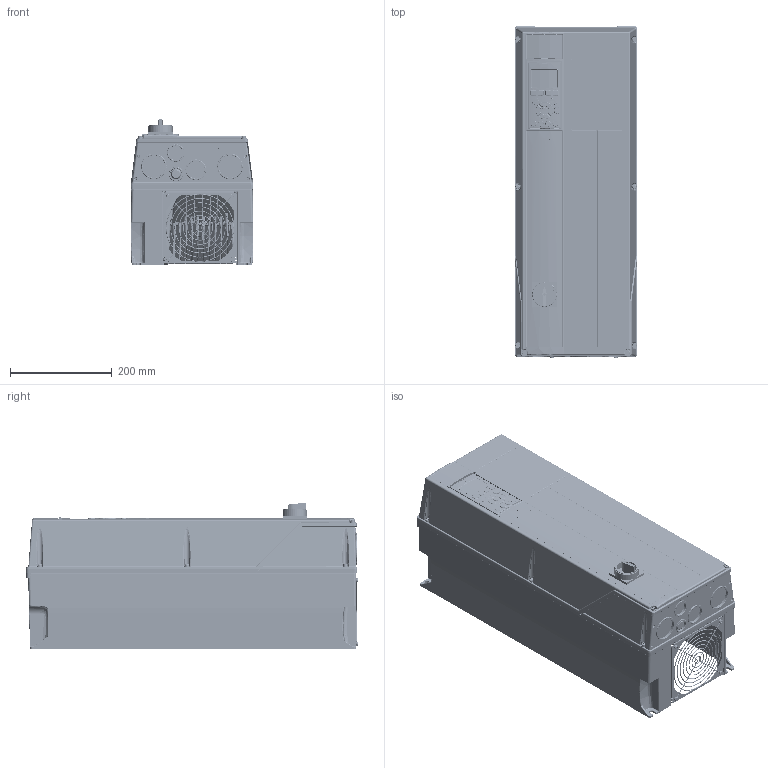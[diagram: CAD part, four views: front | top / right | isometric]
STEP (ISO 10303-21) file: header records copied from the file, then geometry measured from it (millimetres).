
FILE_DESCRIPTION((''),'2;1');
FILE_NAME('DANFOSS-FC300-B2-SWITCH','2011-11-09T',('cstephenkumar'),('Be-Atch INC. 1993'),'PRO/ENGINEER BY PARAMETRIC TECHNOLOGY CORPORATION, 2009360','PRO/ENGINEER BY PARAMETRIC TECHNOLOGY CORPORATION, 2009360','');
FILE_SCHEMA(('AUTOMOTIVE_DESIGN { 1 0 10303 214 1 1 1 1 }'));
Products named in the file (1): DANFOSS-FC300-B2-SWITCH
Bounding box: 242 x 653.31 x 288.81 mm (x, y, z)
Volume: 26531248.6 mm3; surface area: 2601882.7 mm2
Topology: 1 solids, 19 shells, 6976 faces, 17315 edges, 10443 vertices
Faces by surface type: cylinder 2409, plane 1894, bspline 1858, torus 389, cone 189, sphere 130, extrusion 107
Entity records: 321631 total; most frequent: CARTESIAN_POINT 170604, ORIENTED_EDGE 34494, DIRECTION 26178, EDGE_CURVE 17247, VERTEX_POINT 10443, AXIS2_PLACEMENT_3D 9361, VECTOR 7456, LINE 7349
